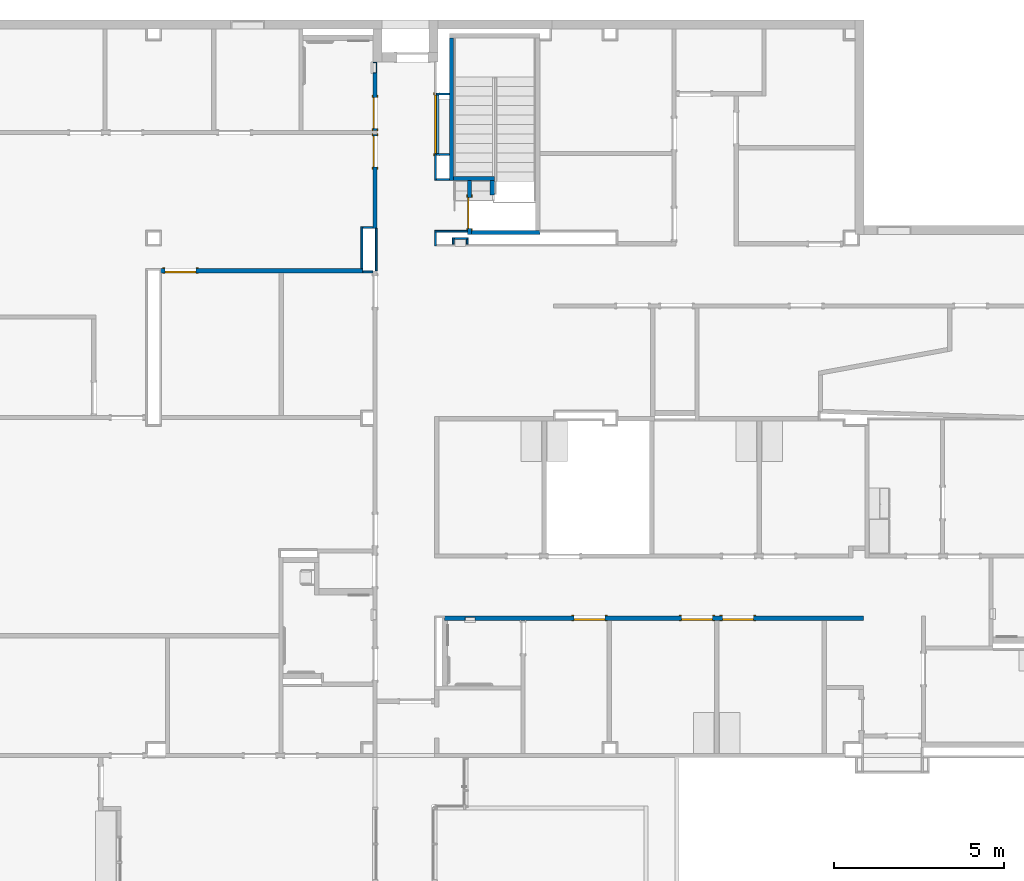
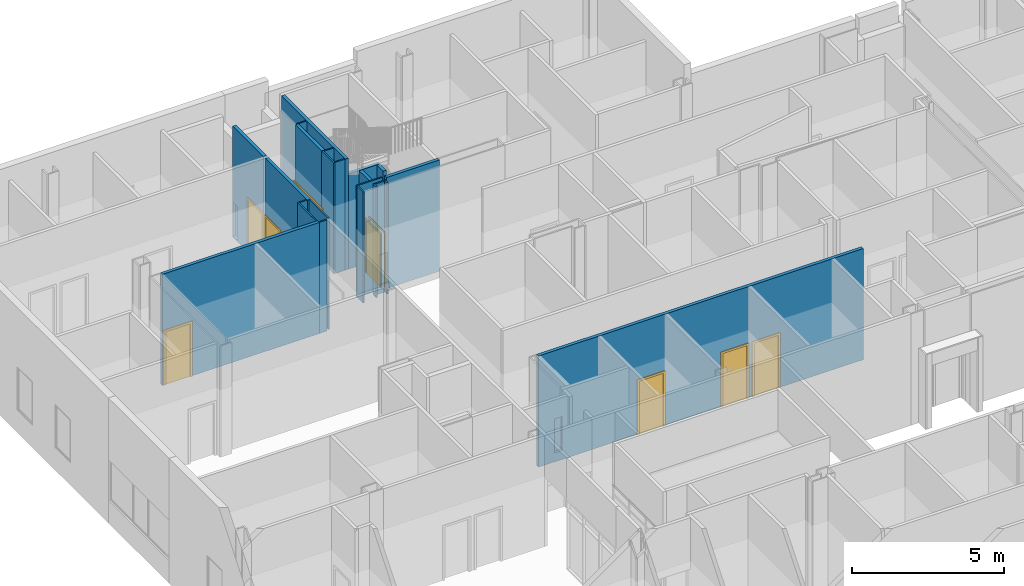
# One storey, part 32 of 82: 23 walls, 8 doors, 10 openings.
"""IFC2X3 building model written with IfcOpenShell, lengths in metres."""

from ifc_helpers import new_model, entity, si_unit, converted_unit, frame, frame_2d, origin, origin_2d_with_axis, place, context, project, spatial, polyline, rectangle, outline, extrude, source, transform, mapped, material, layer, layer_set, layer_usage, type_object, type_shapes, element, fill, save


model = new_model("IFC2X3")

# Units and contexts
model_context = context("Model", 3, precision=1e-09, world=origin())
plan_context = context("Plan", 3, precision=1e-09, world=origin())
ifc_project = project(units=[si_unit("LENGTHUNIT", "METRE"), si_unit("AREAUNIT", "SQUARE_METRE"), si_unit("VOLUMEUNIT", "CUBIC_METRE"), converted_unit("PLANEANGLEUNIT", "DEGREE", entity("IfcRatioMeasure", 0.01745329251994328), si_unit("PLANEANGLEUNIT", "RADIAN"), dimensions=[0, 0, 0, 0, 0, 0, 0]), si_unit("TIMEUNIT", "SECOND")], contexts=[model_context, plan_context])

# Site, building, storey
site_placement = place(None, origin())
site = spatial("IfcSite", under=ifc_project, at=site_placement, Name="Default", CompositionType="ELEMENT")
building_placement = place(site_placement, origin())
building = spatial("IfcBuilding", under=site, at=building_placement, CompositionType="ELEMENT")
storey_placement = place(building_placement, origin())
storey = spatial("IfcBuildingStorey", under=building, at=storey_placement, Name="First Floor", CompositionType="ELEMENT", Elevation=-3.531500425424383e-13)

# Wall, openings, doors
ifc_material_1 = material(Name="Plasterboard")
ifc_layer_1 = layer(ifc_material_1, 0.016)
ifc_material_2 = material(Name="Metal - Stud Layer")
ifc_layer_2 = layer(ifc_material_2, 0.092)
ifc_layer_3 = layer(ifc_material_1, 0.016)
ifc_layer_set_1 = layer_set([ifc_layer_1, ifc_layer_2, ifc_layer_3], Name="Basic Wall:Interior - Partition (92mm Stud)")
ifc_layer_usage_1 = layer_usage(ifc_layer_set_1, "AXIS2", "NEGATIVE", 0.062)
wall_1_placement = place(storey_placement, frame((-38.42400000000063, 38.88799999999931, 0.0)))
wall_1 = element("IfcWallStandardCase", 1, at=wall_1_placement, inside=storey, material=ifc_layer_usage_1, Name="Basic Wall:Interior - Partition (92mm Stud)", ObjectType="Basic Wall:Interior - Partition (92mm Stud)", context=model_context, shape_type="SweptSolid", body=[
    extrude(rectangle(XDim=12.344, YDim=0.1239999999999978, at=frame_2d((6.172000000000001, 0.0), x_axis=(-1.0, 0.0))), origin(), (0.0, 0.0, 1.0), 4.46800000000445),
])
opening_1_placement = place(wall_1_placement, origin())
element("IfcOpeningElement", 2, at=opening_1_placement, cuts=wall_1, ObjectType="Opening", context=model_context, shape_type="SweptSolid", body=[
    extrude(rectangle(XDim=1.362075, YDim=0.2984500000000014, at=origin_2d_with_axis()), frame((0.7491000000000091, -0.1255000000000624, 1.041399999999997), z_axis=(0.0, 1.0, 0.0), x_axis=(0.0, 0.0, -1.0)), (0.0, 0.0, 1.0), 0.1524000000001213),
])
opening_2_placement = place(wall_1_placement, frame((4.729999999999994, 0.06199999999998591, 0.0)))
opening_2 = element("IfcOpeningElement", 3, at=opening_2_placement, cuts=wall_1, Name="M_Single-Flush:0915 x 2134mm:0915 x 2134mm:1", ObjectType="Opening", context=model_context, shape_type="SweptSolid", body=[
    extrude(rectangle(XDim=0.9149999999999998, YDim=2.134, at=frame_2d((1.067, 0.4574999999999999), x_axis=(0.0, -1.0))), frame((0.0, 0.0, 0.0), z_axis=(0.0, -1.0, 0.0), x_axis=(0.0, 0.0, 1.0)), (0.0, 0.0, 1.0), 0.124),
])
opening_3_placement = place(wall_1_placement, frame((7.899999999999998, 0.06199999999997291, 0.0)))
opening_3 = element("IfcOpeningElement", 4, at=opening_3_placement, cuts=wall_1, Name="M_Single-Flush:0915 x 2134mm:0915 x 2134mm:1", ObjectType="Opening", context=model_context, shape_type="SweptSolid", body=[
    extrude(rectangle(XDim=0.9149999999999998, YDim=2.134, at=frame_2d((1.067, 0.4574999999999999), x_axis=(0.0, -1.0))), frame((0.0, 0.0, 0.0), z_axis=(0.0, -1.0, 0.0), x_axis=(0.0, 0.0, 1.0)), (0.0, 0.0, 1.0), 0.124),
])
opening_4_placement = place(wall_1_placement, frame((9.099000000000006, 0.06199999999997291, 0.0)))
opening_4 = element("IfcOpeningElement", 5, at=opening_4_placement, cuts=wall_1, Name="M_Single-Flush:0915 x 2134mm:0915 x 2134mm:1", ObjectType="Opening", context=model_context, shape_type="SweptSolid", body=[
    extrude(rectangle(XDim=0.9149999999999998, YDim=2.134, at=frame_2d((1.067, 0.4575), x_axis=(0.0, 1.0))), frame((0.0, 0.0, 0.0), z_axis=(0.0, -1.0, 0.0), x_axis=(0.0, 0.0, 1.0)), (0.0, 0.0, 1.0), 0.124),
])
door_style_1 = type_object("IfcDoorStyle", Name="0915 x 2134mm", ConstructionType="NOTDEFINED", OperationType="SINGLE_SWING_RIGHT", ParameterTakesPrecedence=False, Sizeable=False)
shared_shape_1 = source(origin(), model_context, "Body", "SweptSolid", [
    extrude(outline(polyline([(-0.5335, -1.123999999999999), (0.5334999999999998, -1.123999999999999), (0.5334999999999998, 1.086), (0.4574999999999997, 1.086), (0.4574999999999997, -1.048000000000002), (-0.4574999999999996, -1.048000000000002), (-0.4574999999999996, 1.086), (-0.5335, 1.086), (-0.5335, -1.123999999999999)])), frame((0.4575000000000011, 0.1239999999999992, 1.086), z_axis=(0.0, 1.0, 0.0), x_axis=(1.0, 0.0, 0.0)), (0.0, 0.0, 1.0), 0.02499999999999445),
    extrude(outline(polyline([(-1.123999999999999, -0.5334999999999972), (1.085999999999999, -0.5334999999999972), (1.085999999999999, -0.4575000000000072), (-1.048, -0.4575000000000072), (-1.048, 0.4575000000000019), (1.085999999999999, 0.4575000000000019), (1.085999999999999, 0.5335000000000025), (-1.123999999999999, 0.5335000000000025), (-1.123999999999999, -0.5334999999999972)])), frame((0.4575000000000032, -0.02500000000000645, 1.085999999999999), z_axis=(0.0, 1.0, 0.0), x_axis=(0.0, 0.0, -1.0)), (0.0, 0.0, 1.0), 0.02500000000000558),
    extrude(rectangle(XDim=0.051, YDim=0.9149999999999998, at=origin_2d_with_axis()), frame((0.4575000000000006, 0.09849999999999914, 0.0), z_axis=(0.0, 0.0, 1.0), x_axis=(0.0, 1.0, 0.0)), (0.0, 0.0, 1.0), 2.133999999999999),
])
type_shapes(door_style_1, [shared_shape_1])
door_1_placement = place(opening_4_placement, frame((0.0, 0.0, 0.0), z_axis=(0.0, 0.0, 1.0), x_axis=(-1.0, 0.0, 0.0)))
door_1 = element("IfcDoor", 6, at=door_1_placement, inside=storey, type_object=door_style_1, Name="M_Single-Flush:0915 x 2134mm:0915 x 2134mm", ObjectType="0915 x 2134mm", OverallHeight=2.134, OverallWidth=0.9149999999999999, context=model_context, shape_type="MappedRepresentation", body=[
    mapped(shared_shape_1, transform((0.0, 0.0, 0.0), scale=1.0)),
])
fill(opening_4, door_1)
door_style_2 = type_object("IfcDoorStyle", Name="0915 x 2134mm", ConstructionType="NOTDEFINED", OperationType="SINGLE_SWING_LEFT", ParameterTakesPrecedence=False, Sizeable=False)
shared_shape_2 = source(origin(), model_context, "Body", "SweptSolid", [
    extrude(outline(polyline([(-0.5335, -1.123999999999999), (0.5334999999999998, -1.123999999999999), (0.5334999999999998, 1.086), (0.4574999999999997, 1.086), (0.4574999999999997, -1.048000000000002), (-0.4574999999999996, -1.048000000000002), (-0.4574999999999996, 1.086), (-0.5335, 1.086), (-0.5335, -1.123999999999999)])), frame((0.4575000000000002, 0.1489999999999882, 1.086), z_axis=(0.0, -1.0, 0.0), x_axis=(-1.0, 0.0, 0.0)), (0.0, 0.0, 1.0), 0.02499999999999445),
    extrude(outline(polyline([(-1.123999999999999, -0.5334999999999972), (1.085999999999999, -0.5334999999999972), (1.085999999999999, -0.4575000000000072), (-1.048, -0.4575000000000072), (-1.048, 0.4575000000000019), (1.085999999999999, 0.4575000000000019), (1.085999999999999, 0.5335000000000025), (-1.123999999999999, 0.5335000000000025), (-1.123999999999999, -0.5334999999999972)])), frame((0.4574999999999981, 0.0, 1.085999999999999), z_axis=(0.0, -1.0, 0.0), x_axis=(0.0, 0.0, -1.0)), (0.0, 0.0, 1.0), 0.02500000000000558),
    extrude(rectangle(XDim=0.9149999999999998, YDim=0.051, at=origin_2d_with_axis()), frame((0.4575000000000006, 0.09849999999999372, 0.0)), (0.0, 0.0, 1.0), 2.133999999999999),
])
type_shapes(door_style_2, [shared_shape_2])
door_2_placement = place(opening_2_placement, frame((0.0, 0.0, 0.0), z_axis=(0.0, 0.0, 1.0), x_axis=(-1.0, 0.0, 0.0)))
door_2 = element("IfcDoor", 7, at=door_2_placement, inside=storey, type_object=door_style_2, Name="M_Single-Flush:0915 x 2134mm:0915 x 2134mm", ObjectType="0915 x 2134mm", OverallHeight=2.134, OverallWidth=0.9149999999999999, context=model_context, shape_type="MappedRepresentation", body=[
    mapped(shared_shape_2, transform((0.0, 0.0, 0.0), scale=1.0)),
])
fill(opening_2, door_2)
door_3_placement = place(opening_3_placement, frame((0.0, 0.0, 0.0), z_axis=(0.0, 0.0, 1.0), x_axis=(-1.0, 0.0, 0.0)))
door_3 = element("IfcDoor", 8, at=door_3_placement, inside=storey, type_object=door_style_2, Name="M_Single-Flush:0915 x 2134mm:0915 x 2134mm", ObjectType="0915 x 2134mm", OverallHeight=2.134, OverallWidth=0.9149999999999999, context=model_context, shape_type="MappedRepresentation", body=[
    mapped(shared_shape_2, transform((0.0, 0.0, 0.0), scale=1.0)),
])
fill(opening_3, door_3)

# Wall, opening, door
wall_2_placement = place(storey_placement, frame((-40.83600000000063, 49.13199999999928, 0.0), z_axis=(0.0, 0.0, 1.0), x_axis=(-1.0, 0.0, 0.0)))
wall_2 = element("IfcWallStandardCase", 9, at=wall_2_placement, inside=storey, material=ifc_layer_usage_1, Name="Basic Wall:Interior - Partition (92mm Stud)", ObjectType="Basic Wall:Interior - Partition (92mm Stud)", context=model_context, shape_type="SweptSolid", body=[
    extrude(rectangle(XDim=5.960999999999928, YDim=0.1240000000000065, at=frame_2d((2.980499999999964, 0.0), x_axis=(-1.0, 0.0))), origin(), (0.0, 0.0, 1.0), 4.468000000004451),
])
opening_5_placement = place(wall_2_placement, frame((4.918999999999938, -0.06200000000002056, 0.0)))
opening_5 = element("IfcOpeningElement", 10, at=opening_5_placement, cuts=wall_2, Name="M_Single-Flush:0915 x 2134mm:0915 x 2134mm:1", ObjectType="Opening", context=model_context, shape_type="SweptSolid", body=[
    extrude(rectangle(XDim=0.9149999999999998, YDim=2.134, at=frame_2d((1.067, 0.4575), x_axis=(0.0, 1.0))), frame((0.0, 0.0, 0.0), z_axis=(0.0, 1.0, 0.0), x_axis=(0.0, 0.0, 1.0)), (0.0, 0.0, 1.0), 0.124),
])
door_4_placement = place(opening_5_placement, origin())
door_4 = element("IfcDoor", 11, at=door_4_placement, inside=storey, type_object=door_style_1, Name="M_Single-Flush:0915 x 2134mm:0915 x 2134mm", ObjectType="0915 x 2134mm", OverallHeight=2.134, OverallWidth=0.9149999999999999, context=model_context, shape_type="MappedRepresentation", body=[
    mapped(shared_shape_1, transform((0.0, 0.0, 0.0), scale=1.0)),
])
fill(opening_5, door_4)

wall_3_placement = place(storey_placement, frame((-38.65800000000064, 54.31342569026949, 0.0), z_axis=(0.0, 0.0, 1.0), x_axis=(0.0, -1.0, 0.0)))
wall_3 = element("IfcWallStandardCase", 12, at=wall_3_placement, inside=storey, material=ifc_layer_usage_1, Name="Basic Wall:Interior - Partition (92mm Stud)", ObjectType="Basic Wall:Interior - Partition (92mm Stud)", context=model_context, shape_type="SweptSolid", body=[
    extrude(rectangle(XDim=1.730000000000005, YDim=0.1239999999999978, at=frame_2d((0.8650000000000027, 0.0), x_axis=(-1.0, 0.0))), origin(), (0.0, 0.0, 1.0), 4.468000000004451),
])
opening_6_placement = place(wall_3_placement, frame((1.729999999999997, 0.06199999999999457, 0.0)))
opening_6 = element("IfcOpeningElement", 13, at=opening_6_placement, cuts=wall_3, Name="M_Double-Flush:1730 x 2134mm:1730 x 2134mm:1", ObjectType="Opening", context=model_context, shape_type="SweptSolid", body=[
    extrude(rectangle(XDim=2.133999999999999, YDim=1.729999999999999, at=frame_2d((1.067, 0.8649999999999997), x_axis=(1.0, 0.0))), frame((0.0, 0.0, 0.0), z_axis=(0.0, -1.0, 0.0), x_axis=(0.0, 0.0, 1.0)), (0.0, 0.0, 1.0), 0.124),
])
door_style_3 = type_object("IfcDoorStyle", Name="1730 x 2134mm", ConstructionType="NOTDEFINED", OperationType="DOUBLE_DOOR_SINGLE_SWING", ParameterTakesPrecedence=False, Sizeable=False)
shared_shape_3 = source(origin(), model_context, "Body", "SweptSolid", [
    extrude(rectangle(XDim=0.051, YDim=0.8650000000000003, at=origin_2d_with_axis()), frame((1.2975, 0.09850000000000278, 0.0), z_axis=(0.0, 0.0, 1.0), x_axis=(0.0, -1.0, 0.0)), (0.0, 0.0, 1.0), 2.133999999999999),
    extrude(rectangle(XDim=0.05099999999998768, YDim=0.8649999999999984, at=origin_2d_with_axis()), frame((0.4325000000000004, 0.09850000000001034, 0.0), z_axis=(0.0, 0.0, 1.0), x_axis=(0.0, -1.0, 0.0)), (0.0, 0.0, 1.0), 2.134),
    extrude(outline(polyline([(-1.048, 0.8649999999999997), (1.086, 0.8649999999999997), (1.086, 0.9409999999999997), (-1.124, 0.9409999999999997), (-1.124, -0.9409999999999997), (1.086, -0.9409999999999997), (1.086, -0.8649999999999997), (-1.048, -0.8649999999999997), (-1.048, 0.8649999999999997)])), frame((0.8649999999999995, -0.02499999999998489, 1.086), z_axis=(0.0, 1.0, 0.0), x_axis=(0.0, 0.0, -1.0)), (0.0, 0.0, 1.0), 0.02499999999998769),
    extrude(outline(polyline([(-1.048, 0.8649999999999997), (1.086, 0.8649999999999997), (1.086, 0.9409999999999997), (-1.124, 0.9409999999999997), (-1.124, -0.9409999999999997), (1.086, -0.9409999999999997), (1.086, -0.8649999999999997), (-1.048, -0.8649999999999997), (-1.048, 0.8649999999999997)])), frame((0.8649999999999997, 0.1240000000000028, 1.086), z_axis=(0.0, 1.0, 0.0), x_axis=(0.0, 0.0, -1.0)), (0.0, 0.0, 1.0), 0.02500000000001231),
])
type_shapes(door_style_3, [shared_shape_3])
door_5_placement = place(opening_6_placement, frame((0.0, 0.0, 0.0), z_axis=(0.0, 0.0, 1.0), x_axis=(-1.0, 0.0, 0.0)))
door_5 = element("IfcDoor", 14, at=door_5_placement, inside=storey, type_object=door_style_3, Name="M_Double-Flush:1730 x 2134mm:1730 x 2134mm", ObjectType="1730 x 2134mm", OverallHeight=2.133999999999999, OverallWidth=1.729999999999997, context=model_context, shape_type="MappedRepresentation", body=[
    mapped(shared_shape_3, transform((0.0, 0.0, 0.0), scale=1.0)),
])
fill(opening_6, door_5)

# Wall, openings, door
wall_4_placement = place(storey_placement, frame((-40.47500000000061, 55.28799999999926, 0.0), z_axis=(0.0, 0.0, 1.0), x_axis=(0.0, -1.0, 0.0)))
wall_4 = element("IfcWallStandardCase", 15, at=wall_4_placement, inside=storey, material=ifc_layer_usage_1, Name="Basic Wall:Interior - Partition (92mm Stud)", ObjectType="Basic Wall:Interior - Partition (92mm Stud)", context=model_context, shape_type="SweptSolid", body=[
    extrude(rectangle(XDim=2.024000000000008, YDim=0.1240000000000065, at=frame_2d((1.012000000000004, 0.0), x_axis=(-1.0, 0.0))), origin(), (0.0, 0.0, 1.0), 4.46800000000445),
])
opening_7_placement = place(wall_4_placement, origin())
element("IfcOpeningElement", 16, at=opening_7_placement, cuts=wall_4, ObjectType="Opening", context=model_context, shape_type="SweptSolid", body=[
    extrude(rectangle(XDim=1.362075, YDim=0.2984499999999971, at=origin_2d_with_axis()), frame((0.1749000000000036, -0.1255000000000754, 0.7371999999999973), z_axis=(0.0, 1.0, 0.0), x_axis=(0.0, 0.0, -1.0)), (0.0, 0.0, 1.0), 0.15240000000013),
])
opening_8_placement = place(wall_4_placement, frame((1.963999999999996, 0.06200000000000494, 0.0)))
opening_8 = element("IfcOpeningElement", 17, at=opening_8_placement, cuts=wall_4, Name="M_Single-Flush:0915 x 2134mm:0915 x 2134mm:1", ObjectType="Opening", context=model_context, shape_type="SweptSolid", body=[
    extrude(rectangle(XDim=0.9149999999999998, YDim=2.134, at=frame_2d((1.067, 0.4575000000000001), x_axis=(0.0, -1.0))), frame((0.0, 0.0, 0.0), z_axis=(0.0, -1.0, 0.0), x_axis=(0.0, 0.0, 1.0)), (0.0, 0.0, 1.0), 0.124),
])
door_6_placement = place(opening_8_placement, frame((0.0, 0.0, 0.0), z_axis=(0.0, 0.0, 1.0), x_axis=(-1.0, 0.0, 0.0)))
door_6 = element("IfcDoor", 18, at=door_6_placement, inside=storey, type_object=door_style_2, Name="M_Single-Flush:0915 x 2134mm:0915 x 2134mm", ObjectType="0915 x 2134mm", OverallHeight=2.134, OverallWidth=0.9149999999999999, context=model_context, shape_type="MappedRepresentation", body=[
    mapped(shared_shape_2, transform((0.0, 0.0, 0.0), scale=1.0)),
])
fill(opening_8, door_6)

# Wall
ifc_material_3 = material(Name="Type-X Plasterboard")
ifc_layer_4 = layer(ifc_material_3, 0.016)
ifc_layer_5 = layer(ifc_material_2, 0.092)
ifc_layer_6 = layer(ifc_material_3, 0.016)
ifc_layer_set_2 = layer_set([ifc_layer_4, ifc_layer_5, ifc_layer_6], Name="Basic Wall:Interior - Rated 1-HR (92mm Stud)")
ifc_layer_usage_2 = layer_usage(ifc_layer_set_2, "AXIS2", "NEGATIVE", 0.06200000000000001)
wall_5_placement = place(storey_placement, frame((-38.22200014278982, 55.99500035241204, 0.0), z_axis=(0.0, 0.0, 1.0), x_axis=(0.0, -1.0, 0.0)))
element("IfcWallStandardCase", 19, at=wall_5_placement, inside=storey, material=ifc_layer_usage_2, Name="Basic Wall:Interior - Rated 1-HR (92mm Stud)", ObjectType="Basic Wall:Interior - Rated 1-HR (92mm Stud)", context=model_context, shape_type="SweptSolid", body=[
    extrude(rectangle(XDim=4.205000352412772, YDim=0.1239999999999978, at=frame_2d((2.102500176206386, 0.0), x_axis=(-1.0, 0.0))), origin(), (0.0, 0.0, 1.0), 4.468000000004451),
])

# Wall, opening, door
wall_6_placement = place(storey_placement, frame((-40.47500000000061, 53.13999999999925, 0.0), z_axis=(0.0, 0.0, 1.0), x_axis=(0.0, -1.0, 0.0)))
wall_6 = element("IfcWallStandardCase", 20, at=wall_6_placement, inside=storey, material=ifc_layer_usage_1, Name="Basic Wall:Interior - Partition (92mm Stud)", ObjectType="Basic Wall:Interior - Partition (92mm Stud)", context=model_context, shape_type="SweptSolid", body=[
    extrude(rectangle(XDim=2.763999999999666, YDim=0.1240000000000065, at=frame_2d((1.381999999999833, 0.0), x_axis=(-1.0, 0.0))), origin(), (0.0, 0.0, 1.0), 4.468000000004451),
])
opening_9_placement = place(wall_6_placement, frame((0.9549999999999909, 0.06200000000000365, 0.0)))
opening_9 = element("IfcOpeningElement", 21, at=opening_9_placement, cuts=wall_6, Name="M_Single-Flush:0915 x 2134mm:0915 x 2134mm:1", ObjectType="Opening", context=model_context, shape_type="SweptSolid", body=[
    extrude(rectangle(XDim=0.9149999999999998, YDim=2.134, at=frame_2d((1.067, 0.4575), x_axis=(0.0, 1.0))), frame((0.0, 0.0, 0.0), z_axis=(0.0, -1.0, 0.0), x_axis=(0.0, 0.0, 1.0)), (0.0, 0.0, 1.0), 0.124),
])
door_7_placement = place(opening_9_placement, frame((0.0, 0.0, 0.0), z_axis=(0.0, 0.0, 1.0), x_axis=(-1.0, 0.0, 0.0)))
door_7 = element("IfcDoor", 22, at=door_7_placement, inside=storey, type_object=door_style_1, Name="M_Single-Flush:0915 x 2134mm:0915 x 2134mm", ObjectType="0915 x 2134mm", OverallHeight=2.134, OverallWidth=0.9149999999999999, context=model_context, shape_type="MappedRepresentation", body=[
    mapped(shared_shape_1, transform((0.0, 0.0, 0.0), scale=1.0)),
])
fill(opening_9, door_7)

wall_7_placement = place(storey_placement, frame((-37.6930000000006, 50.19599999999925, 0.0), z_axis=(0.0, 0.0, 1.0), x_axis=(0.0, 1.0, 0.0)))
wall_7 = element("IfcWallStandardCase", 23, at=wall_7_placement, inside=storey, material=ifc_layer_usage_2, Name="Basic Wall:Interior - Rated 1-HR (92mm Stud)", ObjectType="Basic Wall:Interior - Rated 1-HR (92mm Stud)", context=model_context, shape_type="SweptSolid", body=[
    extrude(rectangle(XDim=1.594000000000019, YDim=0.1239999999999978, at=frame_2d((0.7970000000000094, 0.0), x_axis=(-1.0, 0.0))), origin(), (0.0, 0.0, 1.0), 3.82000000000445),
])
opening_10_placement = place(wall_7_placement, frame((0.1840000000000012, -0.0619999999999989, 0.0)))
opening_10 = element("IfcOpeningElement", 24, at=opening_10_placement, cuts=wall_7, Name="M_Single-Flush:0915 x 2134mm Rated:0915 x 2134mm Rated:1", ObjectType="Opening", context=model_context, shape_type="SweptSolid", body=[
    extrude(rectangle(XDim=0.9149999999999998, YDim=2.134, at=frame_2d((1.067, 0.4575000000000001), x_axis=(0.0, -1.0))), frame((0.0, 0.0, 0.0), z_axis=(0.0, 1.0, 0.0), x_axis=(0.0, 0.0, 1.0)), (0.0, 0.0, 1.0), 0.124),
])
door_style_4 = type_object("IfcDoorStyle", Name="0915 x 2134mm Rated", ConstructionType="NOTDEFINED", OperationType="SINGLE_SWING_LEFT", ParameterTakesPrecedence=False, Sizeable=False)
shared_shape_4 = source(origin(), model_context, "Body", "SweptSolid", [
    extrude(outline(polyline([(-0.5335, -1.123999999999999), (0.5334999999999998, -1.123999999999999), (0.5334999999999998, 1.086), (0.4574999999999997, 1.086), (0.4574999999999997, -1.048000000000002), (-0.4574999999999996, -1.048000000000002), (-0.4574999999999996, 1.086), (-0.5335, 1.086), (-0.5335, -1.123999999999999)])), frame((0.4575000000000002, 0.1489999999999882, 1.086), z_axis=(0.0, -1.0, 0.0), x_axis=(-1.0, 0.0, 0.0)), (0.0, 0.0, 1.0), 0.02499999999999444),
    extrude(outline(polyline([(-1.123999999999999, -0.5334999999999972), (1.085999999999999, -0.5334999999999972), (1.085999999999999, -0.4575000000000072), (-1.048, -0.4575000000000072), (-1.048, 0.4575000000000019), (1.085999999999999, 0.4575000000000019), (1.085999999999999, 0.5335000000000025), (-1.123999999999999, 0.5335000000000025), (-1.123999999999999, -0.5334999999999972)])), frame((0.4574999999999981, 0.0, 1.085999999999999), z_axis=(0.0, -1.0, 0.0), x_axis=(0.0, 0.0, -1.0)), (0.0, 0.0, 1.0), 0.02500000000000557),
    extrude(rectangle(XDim=0.9149999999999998, YDim=0.051, at=origin_2d_with_axis()), frame((0.4575000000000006, 0.09849999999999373, 0.0)), (0.0, 0.0, 1.0), 2.133999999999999),
])
type_shapes(door_style_4, [shared_shape_4])
door_8_placement = place(opening_10_placement, origin())
door_8 = element("IfcDoor", 25, at=door_8_placement, inside=storey, type_object=door_style_4, Name="M_Single-Flush:0915 x 2134mm Rated:0915 x 2134mm Rated", ObjectType="0915 x 2134mm Rated", OverallHeight=2.134, OverallWidth=0.9149999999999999, context=model_context, shape_type="MappedRepresentation", body=[
    mapped(shared_shape_4, transform((0.0, 0.0, 0.0), scale=1.0)),
])
fill(opening_10, door_8)

# Walls
ifc_layer_7 = layer(ifc_material_2, 0.038)
ifc_layer_8 = layer(ifc_material_1, 0.016)
ifc_layer_set_3 = layer_set([ifc_layer_7, ifc_layer_8], Name="Basic Wall:Interior - Furring (38 mm Stud)")
ifc_layer_usage_3 = layer_usage(ifc_layer_set_3, "AXIS2", "NEGATIVE", 0.027)
wall_8_placement = place(storey_placement, frame((-40.44000000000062, 49.12399999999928, 0.0), z_axis=(0.0, 0.0, 1.0), x_axis=(0.0, 1.0, 0.0)))
element("IfcWallStandardCase", 26, at=wall_8_placement, inside=storey, material=ifc_layer_usage_3, Name="Basic Wall:Interior - Furring (38 mm Stud)", ObjectType="Basic Wall:Interior - Furring (38 mm Stud)", context=model_context, shape_type="SweptSolid", body=[
    extrude(rectangle(XDim=1.252000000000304, YDim=0.05400000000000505, at=frame_2d((0.6260000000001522, 0.0), x_axis=(-1.0, 0.0))), origin(), (0.0, 0.0, 1.0), 4.46800000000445),
])
wall_9_placement = place(storey_placement, frame((-40.83600000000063, 49.09699999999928, 0.0)))
element("IfcWallStandardCase", 27, at=wall_9_placement, inside=storey, material=ifc_layer_usage_3, Name="Basic Wall:Interior - Furring (38 mm Stud)", ObjectType="Basic Wall:Interior - Furring (38 mm Stud)", context=model_context, shape_type="SweptSolid", body=[
    extrude(rectangle(XDim=0.29900000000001, YDim=0.05400000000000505, at=frame_2d((0.149500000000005, 0.0), x_axis=(-1.0, 0.0))), origin(), (0.0, 0.0, 1.0), 4.46800000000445),
])
wall_10_placement = place(storey_placement, frame((-38.28400014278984, 52.55642569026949, 0.0), z_axis=(0.0, 0.0, 1.0), x_axis=(-1.0, 0.0, 0.0)))
element("IfcWallStandardCase", 28, at=wall_10_placement, inside=storey, material=ifc_layer_usage_3, Name="Basic Wall:Interior - Furring (38 mm Stud)", ObjectType="Basic Wall:Interior - Furring (38 mm Stud)", context=model_context, shape_type="SweptSolid", body=[
    extrude(rectangle(XDim=0.3819998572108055, YDim=0.05400000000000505, at=frame_2d((0.1909999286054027, 0.0), x_axis=(-1.0, 0.0))), origin(), (0.0, 0.0, 1.0), 4.46800000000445),
])
wall_11_placement = place(storey_placement, frame((-38.66600000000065, 54.34042569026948, 0.0)))
element("IfcWallStandardCase", 29, at=wall_11_placement, inside=storey, material=ifc_layer_usage_3, Name="Basic Wall:Interior - Furring (38 mm Stud)", ObjectType="Basic Wall:Interior - Furring (38 mm Stud)", context=model_context, shape_type="SweptSolid", body=[
    extrude(rectangle(XDim=0.3819998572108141, YDim=0.05400000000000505, at=frame_2d((0.1909999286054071, 0.0), x_axis=(-1.0, 0.0))), origin(), (0.0, 0.0, 1.0), 4.46800000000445),
])
wall_12_placement = place(storey_placement, frame((-37.6930000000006, 50.29299999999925, 0.0), z_axis=(0.0, 0.0, 1.0), x_axis=(-1.0, 0.0, 0.0)))
element("IfcWallStandardCase", 30, at=wall_12_placement, inside=storey, material=ifc_layer_usage_3, Name="Basic Wall:Interior - Furring (38 mm Stud)", ObjectType="Basic Wall:Interior - Furring (38 mm Stud)", context=model_context, shape_type="SweptSolid", body=[
    extrude(rectangle(XDim=0.965000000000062, YDim=0.05399999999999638, at=frame_2d((0.54450000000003, 0.0), x_axis=(-1.0, 0.0))), origin(), (0.0, 0.0, 1.0), 4.46800000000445),
])
wall_13_placement = place(storey_placement, frame((-38.69300000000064, 52.58342569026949, 0.0), z_axis=(0.0, 0.0, 1.0), x_axis=(0.0, -1.0, 0.0)))
element("IfcWallStandardCase", 31, at=wall_13_placement, inside=storey, material=ifc_layer_usage_3, Name="Basic Wall:Interior - Furring (38 mm Stud)", ObjectType="Basic Wall:Interior - Furring (38 mm Stud)", context=model_context, shape_type="SweptSolid", body=[
    extrude(rectangle(XDim=0.7934256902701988, YDim=0.05399999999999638, at=frame_2d((0.3967128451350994, 0.0), x_axis=(-1.0, 0.0))), origin(), (0.0, 0.0, 1.0), 4.46800000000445),
])
wall_14_placement = place(storey_placement, frame((-40.53700000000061, 50.40299999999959, 0.0), z_axis=(0.0, 0.0, 1.0), x_axis=(-1.0, 0.0, 0.0)))
element("IfcWallStandardCase", 32, at=wall_14_placement, inside=storey, material=ifc_layer_usage_3, Name="Basic Wall:Interior - Furring (38 mm Stud)", ObjectType="Basic Wall:Interior - Furring (38 mm Stud)", context=model_context, shape_type="SweptSolid", body=[
    extrude(rectangle(XDim=0.2990000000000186, YDim=0.05400000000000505, at=frame_2d((0.1495000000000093, 0.0), x_axis=(-1.0, 0.0))), origin(), (0.0, 0.0, 1.0), 4.46800000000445),
])
wall_15_placement = place(storey_placement, frame((-37.6930000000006, 50.25799999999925, 0.0)))
element("IfcWallStandardCase", 33, at=wall_15_placement, inside=storey, material=ifc_layer_usage_2, Name="Basic Wall:Interior - Rated 1-HR (92mm Stud)", ObjectType="Basic Wall:Interior - Rated 1-HR (92mm Stud)", context=model_context, shape_type="SweptSolid", body=[
    extrude(rectangle(XDim=2.014999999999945, YDim=0.1239999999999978, at=frame_2d((1.069499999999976, 0.0), x_axis=(-1.0, 0.0))), origin(), (0.0, 0.0, 1.0), 4.46800000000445),
])
wall_16_placement = place(storey_placement, frame((-36.96100000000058, 51.85199999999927, 0.0), z_axis=(0.0, 0.0, 1.0), x_axis=(-1.0, 0.0, 0.0)))
element("IfcWallStandardCase", 34, at=wall_16_placement, inside=storey, material=ifc_layer_usage_2, Name="Basic Wall:Interior - Rated 1-HR (92mm Stud)", ObjectType="Basic Wall:Interior - Rated 1-HR (92mm Stud)", context=model_context, shape_type="SweptSolid", body=[
    extrude(rectangle(XDim=1.199000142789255, YDim=0.1240000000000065, at=frame_2d((0.5995000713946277, 0.0), x_axis=(-1.0, 0.0))), origin(), (0.0, 0.0, 1.0), 3.82000000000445),
])
wall_17_placement = place(storey_placement, frame((-40.86300000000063, 50.42999999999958, 0.0), z_axis=(0.0, 0.0, 1.0), x_axis=(0.0, -1.0, 0.0)))
element("IfcWallStandardCase", 35, at=wall_17_placement, inside=storey, material=ifc_layer_usage_3, Name="Basic Wall:Interior - Furring (38 mm Stud)", ObjectType="Basic Wall:Interior - Furring (38 mm Stud)", context=model_context, shape_type="SweptSolid", body=[
    extrude(rectangle(XDim=1.236000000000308, YDim=0.05400000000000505, at=frame_2d((0.6180000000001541, 0.0), x_axis=(-1.0, 0.0))), origin(), (0.0, 0.0, 1.0), 4.46800000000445),
])
wall_18_placement = place(storey_placement, frame((-38.66600000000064, 51.81699999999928, 0.0)))
element("IfcWallStandardCase", 36, at=wall_18_placement, inside=storey, material=ifc_layer_usage_3, Name="Basic Wall:Interior - Furring (38 mm Stud)", ObjectType="Basic Wall:Interior - Furring (38 mm Stud)", context=model_context, shape_type="SweptSolid", body=[
    extrude(rectangle(XDim=0.3819998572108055, YDim=0.05400000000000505, at=frame_2d((0.1909999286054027, 0.0), x_axis=(-1.0, 0.0))), origin(), (0.0, 0.0, 1.0), 4.46800000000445),
])
wall_19_placement = place(storey_placement, frame((-38.69300000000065, 50.26599999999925, 0.0), z_axis=(0.0, 0.0, 1.0), x_axis=(0.0, -1.0, 0.0)))
element("IfcWallStandardCase", 37, at=wall_19_placement, inside=storey, material=ifc_layer_usage_3, Name="Basic Wall:Interior - Furring (38 mm Stud)", ObjectType="Basic Wall:Interior - Furring (38 mm Stud)", context=model_context, shape_type="SweptSolid", body=[
    extrude(rectangle(XDim=0.4059999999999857, YDim=0.05399999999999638, at=frame_2d((0.2029999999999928, 0.0), x_axis=(-1.0, 0.0))), origin(), (0.0, 0.0, 1.0), 4.46800000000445),
])
wall_20_placement = place(storey_placement, frame((-38.17100111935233, 49.91399999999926, 0.0), z_axis=(0.0, 0.0, 1.0), x_axis=(0.0, 1.0, 0.0)))
element("IfcWallStandardCase", 38, at=wall_20_placement, inside=storey, material=ifc_layer_usage_3, Name="Basic Wall:Interior - Furring (38 mm Stud)", ObjectType="Basic Wall:Interior - Furring (38 mm Stud)", context=model_context, shape_type="SweptSolid", body=[
    extrude(rectangle(XDim=0.195000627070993, YDim=0.05399999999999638, at=frame_2d((0.09750031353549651, 0.0), x_axis=(-1.0, 0.0))), origin(), (0.0, 0.0, 1.0), 4.46800000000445),
])
wall_21_placement = place(storey_placement, frame((-37.75700111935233, 50.05500062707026, 0.0), z_axis=(0.0, 0.0, 1.0), x_axis=(0.0, -1.0, 0.0)))
element("IfcWallStandardCase", 39, at=wall_21_placement, inside=storey, material=ifc_layer_usage_3, Name="Basic Wall:Interior - Furring (38 mm Stud)", ObjectType="Basic Wall:Interior - Furring (38 mm Stud)", context=model_context, shape_type="SweptSolid", body=[
    extrude(rectangle(XDim=0.1410006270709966, YDim=0.05399999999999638, at=frame_2d((0.07050031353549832, 0.0), x_axis=(-1.0, 0.0))), origin(), (0.0, 0.0, 1.0), 4.46800000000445),
])
wall_22_placement = place(storey_placement, frame((-38.14400111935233, 50.08200062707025, 0.0)))
element("IfcWallStandardCase", 40, at=wall_22_placement, inside=storey, material=ifc_layer_usage_3, Name="Basic Wall:Interior - Furring (38 mm Stud)", ObjectType="Basic Wall:Interior - Furring (38 mm Stud)", context=model_context, shape_type="SweptSolid", body=[
    extrude(rectangle(XDim=0.4139999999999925, YDim=0.05400000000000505, at=frame_2d((0.2069999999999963, 0.0), x_axis=(-1.0, 0.0))), origin(), (0.0, 0.0, 1.0), 4.46800000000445),
])
wall_23_placement = place(storey_placement, frame((-37.02300000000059, 51.36699999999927, 0.0), z_axis=(0.0, 0.0, 1.0), x_axis=(0.0, 1.0, 0.0)))
element("IfcWallStandardCase", 41, at=wall_23_placement, inside=storey, material=ifc_layer_usage_2, Name="Basic Wall:Interior - Rated 1-HR (92mm Stud)", ObjectType="Basic Wall:Interior - Rated 1-HR (92mm Stud)", context=model_context, shape_type="SweptSolid", body=[
    extrude(rectangle(XDim=0.4229999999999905, YDim=0.1239999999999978, at=frame_2d((0.2114999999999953, 0.0), x_axis=(-1.0, 0.0))), origin(), (0.0, 0.0, 1.0), 3.82000000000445),
])

save(model, "model.ifc")
